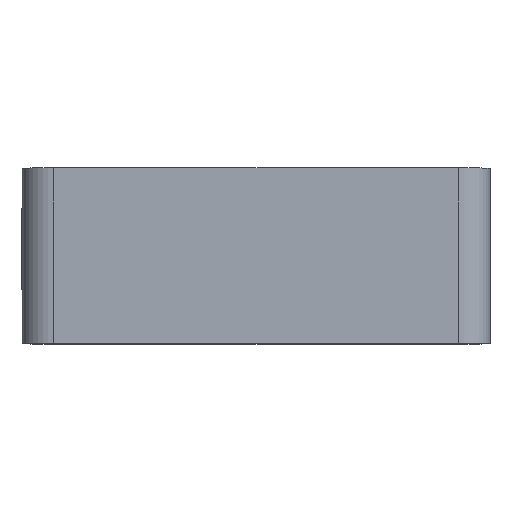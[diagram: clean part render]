
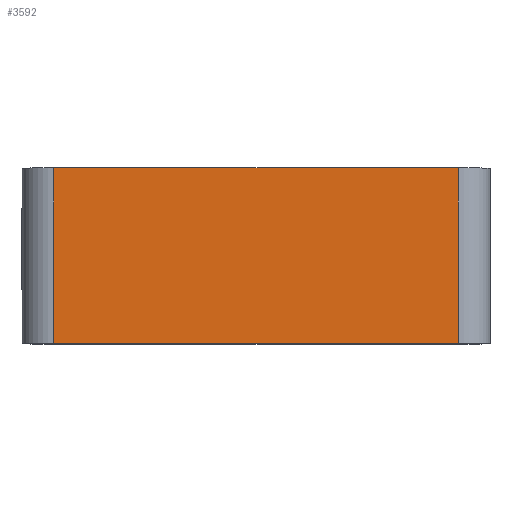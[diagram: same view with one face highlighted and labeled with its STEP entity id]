
A CAD part, top view. The second image highlights one B-rep face of the part: STEP entity #3592.
In plain terms, the highlighted planar face has unit normal (0, 0, 1).
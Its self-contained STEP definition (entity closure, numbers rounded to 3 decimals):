
#178 = ORIENTED_EDGE ( 'NONE', *, *, #5226, .T. ) ;
#547 = CARTESIAN_POINT ( 'NONE',  ( 25.4, 11., 33.75 ) ) ;
#562 = LINE ( 'NONE', #3641, #859 ) ;
#773 = AXIS2_PLACEMENT_3D ( 'NONE', #9590, #2511, #4040 ) ;
#859 = VECTOR ( 'NONE', #9876, 1000. ) ;
#1079 = DIRECTION ( 'NONE',  ( 0., 1., 0. ) ) ;
#1088 = DIRECTION ( 'NONE',  ( 1., 0., 0. ) ) ;
#1144 = LINE ( 'NONE', #8016, #7870 ) ;
#1552 = EDGE_CURVE ( 'NONE', #3666, #2975, #1144, .T. ) ;
#1553 = ORIENTED_EDGE ( 'NONE', *, *, #1552, .F. ) ;
#1574 = VECTOR ( 'NONE', #1079, 1000. ) ;
#2211 = CARTESIAN_POINT ( 'NONE',  ( -25.4, -11., 33.75 ) ) ;
#2511 = DIRECTION ( 'NONE',  ( 0., 0., -1. ) ) ;
#2975 = VERTEX_POINT ( 'NONE', #547 ) ;
#3314 = CARTESIAN_POINT ( 'NONE',  ( -25.4, 11., 33.75 ) ) ;
#3592 = ADVANCED_FACE ( 'NONE', ( #8055 ), #6483, .F. ) ;
#3641 = CARTESIAN_POINT ( 'NONE',  ( 29.4, -11., 33.75 ) ) ;
#3666 = VERTEX_POINT ( 'NONE', #3314 ) ;
#3701 = EDGE_CURVE ( 'NONE', #7258, #2975, #8110, .T. ) ;
#3807 = DIRECTION ( 'NONE',  ( 0., -1., 0. ) ) ;
#4040 = DIRECTION ( 'NONE',  ( -1., 0., 0. ) ) ;
#4128 = ORIENTED_EDGE ( 'NONE', *, *, #3701, .T. ) ;
#4676 = VERTEX_POINT ( 'NONE', #2211 ) ;
#4708 = EDGE_LOOP ( 'NONE', ( #178, #4128, #1553, #7038 ) ) ;
#4892 = CARTESIAN_POINT ( 'NONE',  ( 25.4, 11., 33.75 ) ) ;
#5226 = EDGE_CURVE ( 'NONE', #4676, #7258, #562, .T. ) ;
#5965 = EDGE_CURVE ( 'NONE', #3666, #4676, #9215, .T. ) ;
#6483 = PLANE ( 'NONE',  #773 ) ;
#7038 = ORIENTED_EDGE ( 'NONE', *, *, #5965, .T. ) ;
#7258 = VERTEX_POINT ( 'NONE', #7991 ) ;
#7780 = VECTOR ( 'NONE', #3807, 1000. ) ;
#7837 = CARTESIAN_POINT ( 'NONE',  ( -25.4, 11., 33.75 ) ) ;
#7870 = VECTOR ( 'NONE', #1088, 1000. ) ;
#7991 = CARTESIAN_POINT ( 'NONE',  ( 25.4, -11., 33.75 ) ) ;
#8016 = CARTESIAN_POINT ( 'NONE',  ( 29.4, 11., 33.75 ) ) ;
#8055 = FACE_OUTER_BOUND ( 'NONE', #4708, .T. ) ;
#8110 = LINE ( 'NONE', #4892, #1574 ) ;
#9215 = LINE ( 'NONE', #7837, #7780 ) ;
#9590 = CARTESIAN_POINT ( 'NONE',  ( 29.4, 11., 33.75 ) ) ;
#9876 = DIRECTION ( 'NONE',  ( 1., 0., 0. ) ) ;
